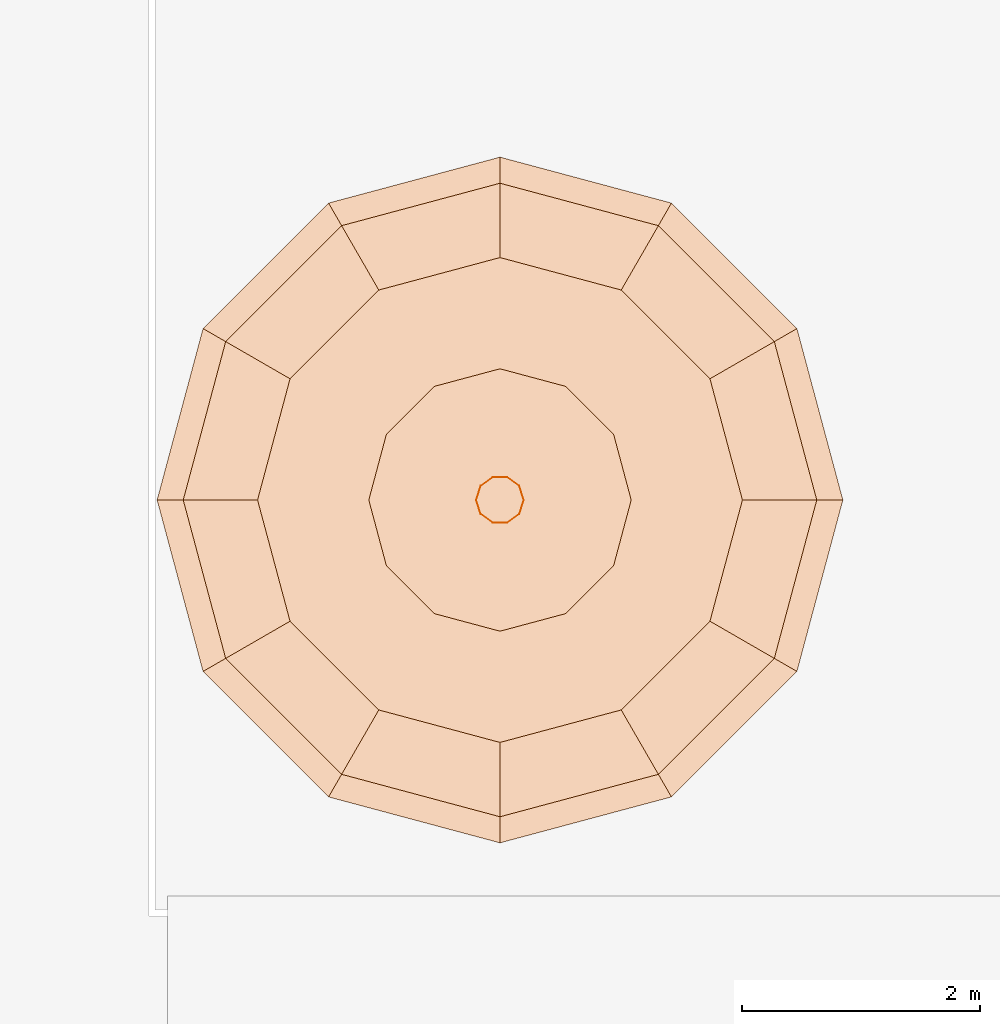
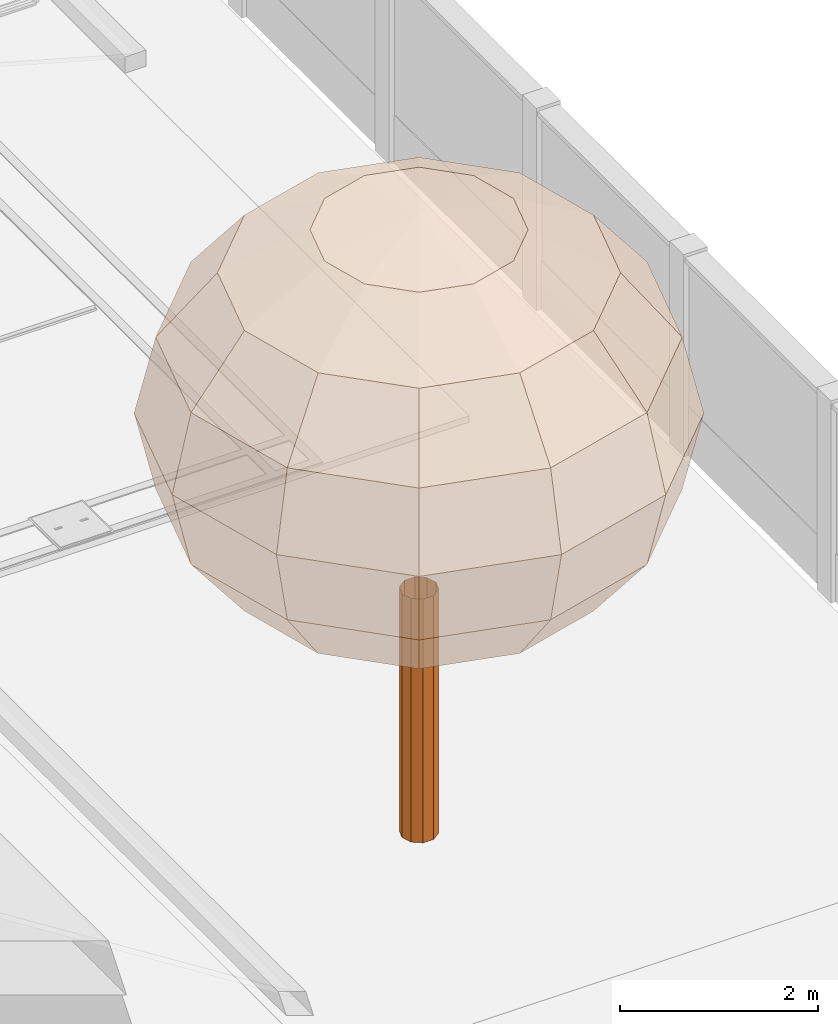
# One storey, part 174 of 177: 2 geographic elements.
"""IFC4 building model written with IfcOpenShell, lengths in metres."""

from ifc_helpers import new_model, si_unit, origin, origin_with_axes, place, context, subcontext, project, spatial, triangles, element, save


model = new_model("IFC4")

# Units and contexts
model_context = context("Model", 3, precision=1e-05, world=origin_with_axes())
body_context = subcontext(model_context, "Body", "Model", "MODEL_VIEW")
ifc_project = project(units=[si_unit("LENGTHUNIT", "METRE"), si_unit("AREAUNIT", "SQUARE_METRE"), si_unit("VOLUMEUNIT", "CUBIC_METRE"), si_unit("PLANEANGLEUNIT", "RADIAN")], contexts=[model_context])

# Site, building, storey
site_placement = place(None, origin_with_axes())
site = spatial("IfcSite", under=ifc_project, at=site_placement, Name="Predio Los Mangos - Morales, San Martín", CompositionType="ELEMENT")
building_placement = place(site_placement, origin())
building = spatial("IfcBuilding", under=site, at=building_placement, Name="Hogar de Refugio Temporal", CompositionType="ELEMENT")
storey_placement = place(building_placement, origin())
storey = spatial("IfcBuildingStorey", under=building, at=storey_placement, Name="NIVEL 1 (NPT +0.00)", CompositionType="ELEMENT", Elevation=0.0)

# Geographic elements
geographic_element_1_placement = place(storey_placement, origin())
element("IfcGeographicElement", 1, at=geographic_element_1_placement, inside=storey, Name="arbol_tronco", ObjectType="Árbol", PredefinedType="NOTDEFINED", context=body_context, shape_type="Tessellation", body=[
    triangles([(66.2006, 82.0, 0.0), (66.1622, 82.1179, 0.0), (66.062, 82.1907, 0.0), (65.938, 82.1907, 0.0), (65.8378, 82.1179, 0.0), (65.7994, 82.0, 0.0), (65.8378, 81.8821, 0.0), (65.938, 81.8093, 0.0), (66.062, 81.8093, 0.0), (66.1622, 81.8821, 0.0), (66.2006, 82.0, 3.0083), (66.1622, 82.1179, 3.0083), (66.062, 82.1907, 3.0083), (65.938, 82.1907, 3.0083), (65.8378, 82.1179, 3.0083), (65.7994, 82.0, 3.0083), (65.8378, 81.8821, 3.0083), (65.938, 81.8093, 3.0083), (66.062, 81.8093, 3.0083), (66.1622, 81.8821, 3.0083)], [[1, 2, 12], [2, 3, 13], [3, 4, 14], [4, 5, 15], [5, 6, 16], [6, 7, 17], [7, 8, 18], [8, 9, 19], [9, 10, 20], [10, 1, 11], [1, 12, 11], [2, 13, 12], [3, 14, 13], [4, 15, 14], [5, 16, 15], [6, 17, 16], [7, 18, 17], [8, 19, 18], [9, 20, 19], [10, 11, 20]]),
])
geographic_element_2_placement = place(storey_placement, origin())
element("IfcGeographicElement", 2, at=geographic_element_2_placement, inside=storey, Name="arbol_copa", ObjectType="Árbol", PredefinedType="NOTDEFINED", context=body_context, shape_type="Tessellation", body=[
    triangles([(66.0, 82.0, 7.621), (66.0, 82.0, 7.621), (66.0, 82.0, 7.621), (66.0, 82.0, 7.621), (66.0, 82.0, 7.621), (66.0, 82.0, 7.621), (66.0, 82.0, 7.621), (66.0, 82.0, 7.621), (66.0, 82.0, 7.621), (66.0, 82.0, 7.621), (66.0, 82.0, 7.621), (66.0, 82.0, 7.621), (67.1033, 82.0, 7.4344), (66.9554, 82.5516, 7.4344), (66.5516, 82.9554, 7.4344), (66.0, 83.1033, 7.4344), (65.4484, 82.9554, 7.4344), (65.0446, 82.5516, 7.4344), (64.8967, 82.0, 7.4344), (65.0446, 81.4484, 7.4344), (65.4484, 81.0446, 7.4344), (66.0, 80.8967, 7.4344), (66.5516, 81.0446, 7.4344), (66.9554, 81.4484, 7.4344), (68.0385, 82.0, 6.9032), (67.7654, 83.0193, 6.9032), (67.0193, 83.7654, 6.9032), (66.0, 84.0385, 6.9032), (64.9807, 83.7654, 6.9032), (64.2346, 83.0193, 6.9032), (63.9615, 82.0, 6.9032), (64.2346, 80.9807, 6.9032), (64.9807, 80.2346, 6.9032), (66.0, 79.9615, 6.9032), (67.0193, 80.2346, 6.9032), (67.7654, 80.9807, 6.9032), (68.6635, 82.0, 6.1082), (68.3066, 83.3317, 6.1082), (67.3317, 84.3066, 6.1082), (66.0, 84.6635, 6.1082), (64.6683, 84.3066, 6.1082), (63.6934, 83.3317, 6.1082), (63.3365, 82.0, 6.1082), (63.6934, 80.6683, 6.1082), (64.6683, 79.6934, 6.1082), (66.0, 79.3365, 6.1082), (67.3317, 79.6934, 6.1082), (68.3066, 80.6683, 6.1082), (68.8829, 82.0, 5.1705), (68.4967, 83.4415, 5.1705), (67.4415, 84.4967, 5.1705), (66.0, 84.8829, 5.1705), (64.5585, 84.4967, 5.1705), (63.5033, 83.4415, 5.1705), (63.1171, 82.0, 5.1705), (63.5033, 80.5585, 5.1705), (64.5585, 79.5033, 5.1705), (66.0, 79.1171, 5.1705), (67.4415, 79.5033, 5.1705), (68.4967, 80.5585, 5.1705), (68.6635, 82.0, 4.2327), (68.3066, 83.3317, 4.2327), (67.3317, 84.3066, 4.2327), (66.0, 84.6635, 4.2327), (64.6683, 84.3066, 4.2327), (63.6934, 83.3317, 4.2327), (63.3365, 82.0, 4.2327), (63.6934, 80.6683, 4.2327), (64.6683, 79.6934, 4.2327), (66.0, 79.3365, 4.2327), (67.3317, 79.6934, 4.2327), (68.3066, 80.6683, 4.2327), (68.0385, 82.0, 3.4377), (67.7654, 83.0193, 3.4377), (67.0193, 83.7654, 3.4377), (66.0, 84.0385, 3.4377), (64.9807, 83.7654, 3.4377), (64.2346, 83.0193, 3.4377), (63.9615, 82.0, 3.4377), (64.2346, 80.9807, 3.4377), (64.9807, 80.2346, 3.4377), (66.0, 79.9615, 3.4377), (67.0193, 80.2346, 3.4377), (67.7654, 80.9807, 3.4377), (67.1033, 82.0, 2.9065), (66.9554, 82.5516, 2.9065), (66.5516, 82.9554, 2.9065), (66.0, 83.1033, 2.9065), (65.4484, 82.9554, 2.9065), (65.0446, 82.5516, 2.9065), (64.8967, 82.0, 2.9065), (65.0446, 81.4484, 2.9065), (65.4484, 81.0446, 2.9065), (66.0, 80.8967, 2.9065), (66.5516, 81.0446, 2.9065), (66.9554, 81.4484, 2.9065), (66.0, 82.0, 2.72), (66.0, 82.0, 2.72), (66.0, 82.0, 2.72), (66.0, 82.0, 2.72), (66.0, 82.0, 2.72), (66.0, 82.0, 2.72), (66.0, 82.0, 2.72), (66.0, 82.0, 2.72), (66.0, 82.0, 2.72), (66.0, 82.0, 2.72), (66.0, 82.0, 2.72), (66.0, 82.0, 2.72)], [[1, 2, 14], [1, 14, 13], [2, 3, 15], [2, 15, 14], [3, 4, 16], [3, 16, 15], [4, 5, 17], [4, 17, 16], [5, 6, 18], [5, 18, 17], [6, 7, 19], [6, 19, 18], [7, 8, 20], [7, 20, 19], [8, 9, 21], [8, 21, 20], [9, 10, 22], [9, 22, 21], [10, 11, 23], [10, 23, 22], [11, 12, 24], [11, 24, 23], [12, 1, 13], [12, 13, 24], [13, 14, 26], [13, 26, 25], [14, 15, 27], [14, 27, 26], [15, 16, 28], [15, 28, 27], [16, 17, 29], [16, 29, 28], [17, 18, 30], [17, 30, 29], [18, 19, 31], [18, 31, 30], [19, 20, 32], [19, 32, 31], [20, 21, 33], [20, 33, 32], [21, 22, 34], [21, 34, 33], [22, 23, 35], [22, 35, 34], [23, 24, 36], [23, 36, 35], [24, 13, 25], [24, 25, 36], [25, 26, 38], [25, 38, 37], [26, 27, 39], [26, 39, 38], [27, 28, 40], [27, 40, 39], [28, 29, 41], [28, 41, 40], [29, 30, 42], [29, 42, 41], [30, 31, 43], [30, 43, 42], [31, 32, 44], [31, 44, 43], [32, 33, 45], [32, 45, 44], [33, 34, 46], [33, 46, 45], [34, 35, 47], [34, 47, 46], [35, 36, 48], [35, 48, 47], [36, 25, 37], [36, 37, 48], [37, 38, 50], [37, 50, 49], [38, 39, 51], [38, 51, 50], [39, 40, 52], [39, 52, 51], [40, 41, 53], [40, 53, 52], [41, 42, 54], [41, 54, 53], [42, 43, 55], [42, 55, 54], [43, 44, 56], [43, 56, 55], [44, 45, 57], [44, 57, 56], [45, 46, 58], [45, 58, 57], [46, 47, 59], [46, 59, 58], [47, 48, 60], [47, 60, 59], [48, 37, 49], [48, 49, 60], [49, 50, 62], [49, 62, 61], [50, 51, 63], [50, 63, 62], [51, 52, 64], [51, 64, 63], [52, 53, 65], [52, 65, 64], [53, 54, 66], [53, 66, 65], [54, 55, 67], [54, 67, 66], [55, 56, 68], [55, 68, 67], [56, 57, 69], [56, 69, 68], [57, 58, 70], [57, 70, 69], [58, 59, 71], [58, 71, 70], [59, 60, 72], [59, 72, 71], [60, 49, 61], [60, 61, 72], [61, 62, 74], [61, 74, 73], [62, 63, 75], [62, 75, 74], [63, 64, 76], [63, 76, 75], [64, 65, 77], [64, 77, 76], [65, 66, 78], [65, 78, 77], [66, 67, 79], [66, 79, 78], [67, 68, 80], [67, 80, 79], [68, 69, 81], [68, 81, 80], [69, 70, 82], [69, 82, 81], [70, 71, 83], [70, 83, 82], [71, 72, 84], [71, 84, 83], [72, 61, 73], [72, 73, 84], [73, 74, 86], [73, 86, 85], [74, 75, 87], [74, 87, 86], [75, 76, 88], [75, 88, 87], [76, 77, 89], [76, 89, 88], [77, 78, 90], [77, 90, 89], [78, 79, 91], [78, 91, 90], [79, 80, 92], [79, 92, 91], [80, 81, 93], [80, 93, 92], [81, 82, 94], [81, 94, 93], [82, 83, 95], [82, 95, 94], [83, 84, 96], [83, 96, 95], [84, 73, 85], [84, 85, 96], [85, 86, 98], [85, 98, 97], [86, 87, 99], [86, 99, 98], [87, 88, 100], [87, 100, 99], [88, 89, 101], [88, 101, 100], [89, 90, 102], [89, 102, 101], [90, 91, 103], [90, 103, 102], [91, 92, 104], [91, 104, 103], [92, 93, 105], [92, 105, 104], [93, 94, 106], [93, 106, 105], [94, 95, 107], [94, 107, 106], [95, 96, 108], [95, 108, 107], [96, 85, 97], [96, 97, 108]]),
])

save(model, "model.ifc")
